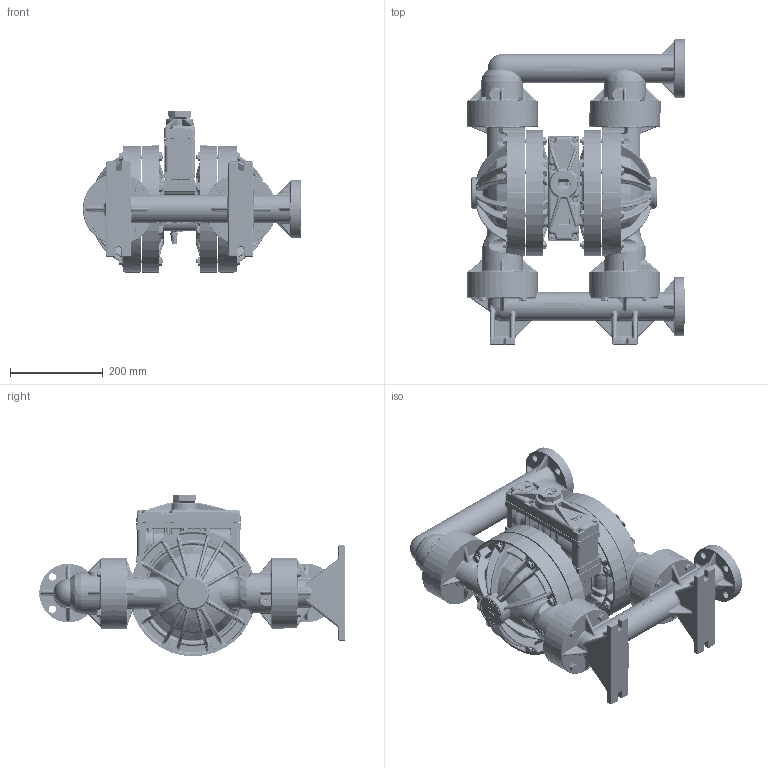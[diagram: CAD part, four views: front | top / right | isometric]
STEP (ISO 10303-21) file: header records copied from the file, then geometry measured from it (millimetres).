
FILE_DESCRIPTION((''),'2;1');
FILE_NAME('PS400_ADV_PLASTIC_PVD_SW0001','2014-10-13T',('nathan.hale'),(''),'PRO/ENGINEER BY PARAMETRIC TECHNOLOGY CORPORATION, 2011180','PRO/ENGINEER BY PARAMETRIC TECHNOLOGY CORPORATION, 2011180','');
FILE_SCHEMA(('CONFIG_CONTROL_DESIGN'));
Products named in the file (1): PS400_ADV_PLASTIC_PVD_SW0001
Bounding box: 471.07 x 658.6 x 348.14 mm (x, y, z)
Volume: 13997730.6 mm3; surface area: 2511840.4 mm2
Topology: 3 solids, 3 shells, 20282 faces, 51289 edges, 31798 vertices
Faces by surface type: plane 9834, bspline 3960, cylinder 2316, cone 1649, torus 1380, sphere 837, extrusion 306
Entity records: 978162 total; most frequent: CARTESIAN_POINT 521154, ORIENTED_EDGE 102508, DIRECTION 84199, EDGE_CURVE 51254, VERTEX_POINT 31798, VECTOR 28475, LINE 28169, AXIS2_PLACEMENT_3D 27862
